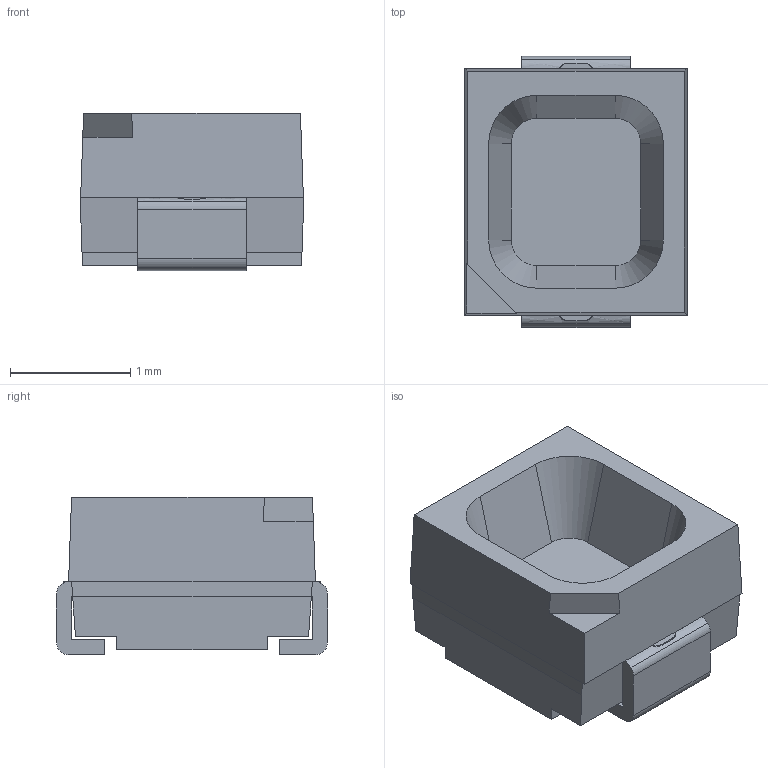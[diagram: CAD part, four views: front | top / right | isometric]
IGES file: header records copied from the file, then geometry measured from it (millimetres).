
Start section: 3D InterOp IGES (Version 20 0 3), Spatial Corp. Copyright (c) 1999-2007.
Global section: file name: DFW-HZKG.igs; native system: Spatial Corp.; preprocessor: 3D InterOp ACIS/IGES; author: Noname; organization: Noname; date: 20190327.154119; units: millimetre
Bounding box: 1.85 x 2.25 x 1.3 mm (x, y, z)
Surface area: 22.9 mm2 (no closed solid volume)
Topology: 0 solids, 0 shells, 79 faces, 464 edges, 464 vertices
Faces by surface type: extrusion 59, revolution 16, bspline 4
